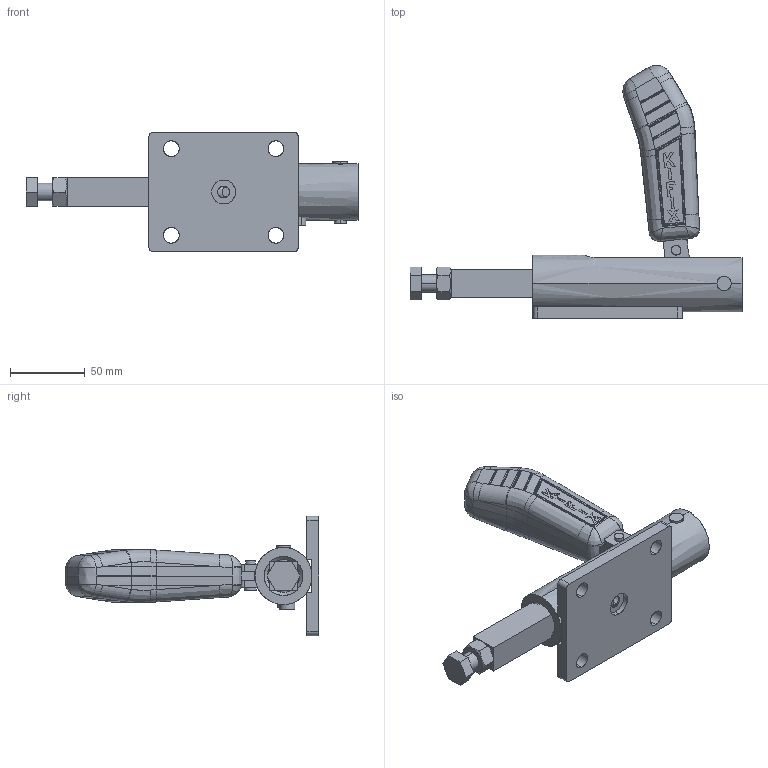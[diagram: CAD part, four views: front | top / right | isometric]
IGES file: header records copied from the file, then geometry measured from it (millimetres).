
Start section: SolidWorks IGES file using analytic representation for surfaces
Global section: file name: C:\Projetos\Grampos\KFKT-012\KFKT-012\KFKT-012.IGS; native system: SolidWorks 2013; preprocessor: SolidWorks 2013; author: Ricardo; date: 140826.160200; units: millimetre
Bounding box: 222.34 x 169.72 x 80 mm (x, y, z)
Surface area: 108324.8 mm2 (no closed solid volume)
Topology: 0 solids, 0 shells, 635 faces, 7374 edges, 7349 vertices
Faces by surface type: bspline 352, revolution 283
